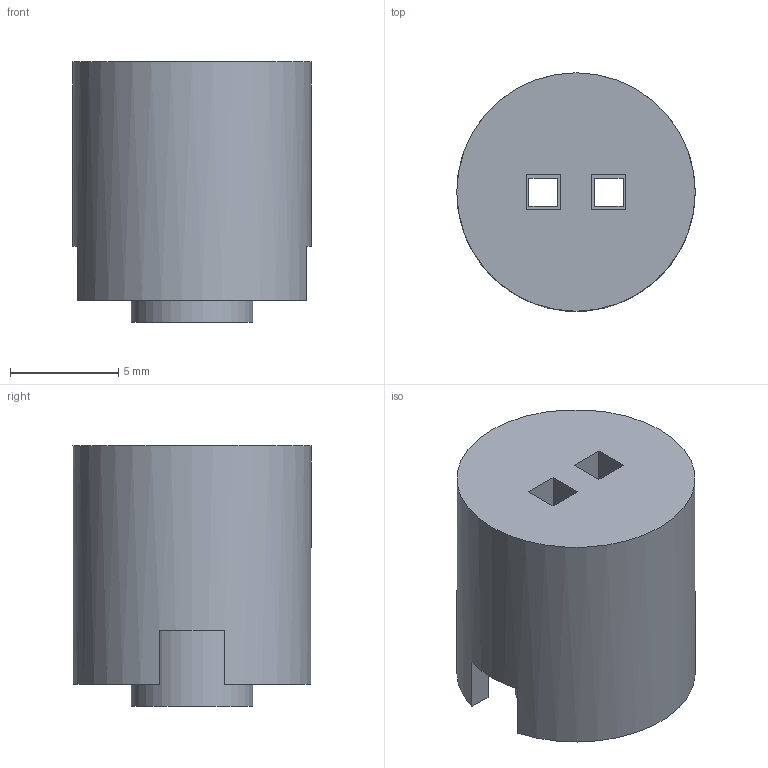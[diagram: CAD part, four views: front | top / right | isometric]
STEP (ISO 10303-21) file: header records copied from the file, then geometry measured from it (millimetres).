
FILE_DESCRIPTION(('FreeCAD Model'),'2;1');
FILE_NAME('Open CASCADE Shape Model','2026-03-01T09:17:57',('Author'),( ''),'Open CASCADE STEP processor 7.8','FreeCAD','Unknown');
FILE_SCHEMA(('AUTOMOTIVE_DESIGN { 1 0 10303 214 1 1 1 1 }'));
Length unit declared in the file: millimetre
Products named in the file (1): Pocket002
Bounding box: 11 x 11 x 12 mm (x, y, z)
Volume: 771.6 mm3; surface area: 973 mm2
Topology: 1 solids, 1 shells, 32 faces, 81 edges, 54 vertices
Faces by surface type: plane 29, cylinder 3
Full cylindrical faces by diameter (mm): 5.6 x1, 9 x1, 11 x1
Entity records: 989 total; most frequent: CARTESIAN_POINT 168, ORIENTED_EDGE 162, DIRECTION 161, EDGE_CURVE 81, LINE 67, VECTOR 67, VERTEX_POINT 54, AXIS2_PLACEMENT_3D 47
